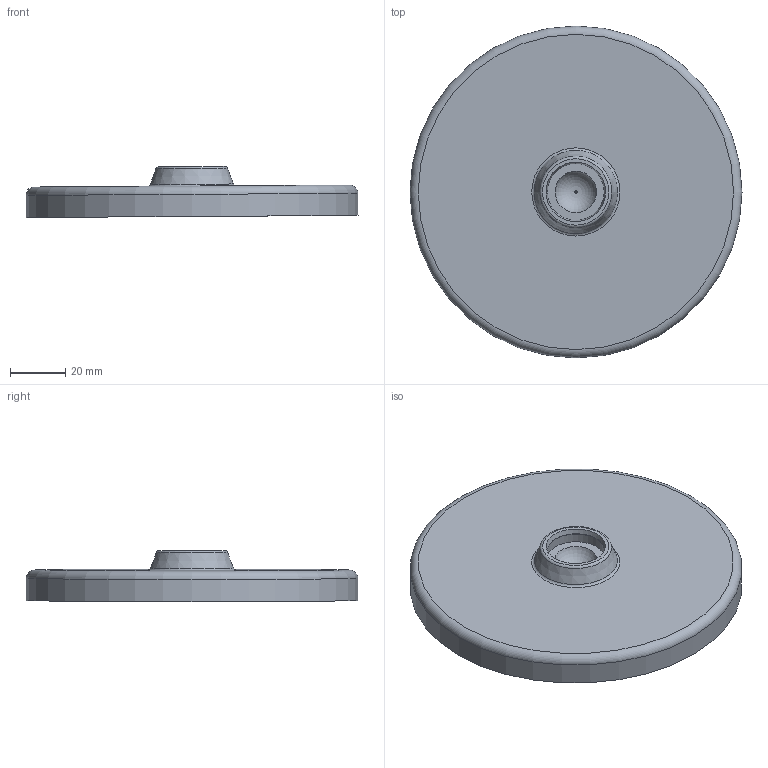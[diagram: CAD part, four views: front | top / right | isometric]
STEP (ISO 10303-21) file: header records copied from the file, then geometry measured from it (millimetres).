
FILE_DESCRIPTION(('STEP AP203'), '1');
FILE_NAME('À00015.4100', '', ('UNSPECIFIED'), ('UNSPECIFIED'), 'C3D Converter', 'C3D Toolkit', '');
FILE_SCHEMA(('CONFIG_CONTROL_DESIGN'));
Length unit declared in the file: millimetre
Products named in the file (1): А00015.4100
Bounding box: 120.05 x 120 x 18.45 mm (x, y, z)
Volume: 78773.6 mm3; surface area: 28911.7 mm2
Topology: 1 solids, 1 shells, 21 faces, 33 edges, 20 vertices
Faces by surface type: plane 8, torus 5, cylinder 4, cone 4
Full cylindrical faces by diameter (mm): 15 x1, 21 x1, 110 x1, 120 x1
Entity records: 449 total; most frequent: DIRECTION 84, CARTESIAN_POINT 62, AXIS2_PLACEMENT_3D 42, EDGE_LOOP 40, ORIENTED_EDGE 40, FACE_OUTER_BOUND 26, ADVANCED_FACE 21, EDGE_CURVE 20
